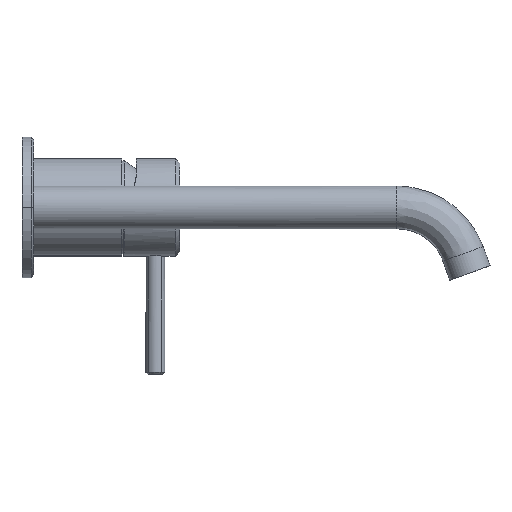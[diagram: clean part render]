
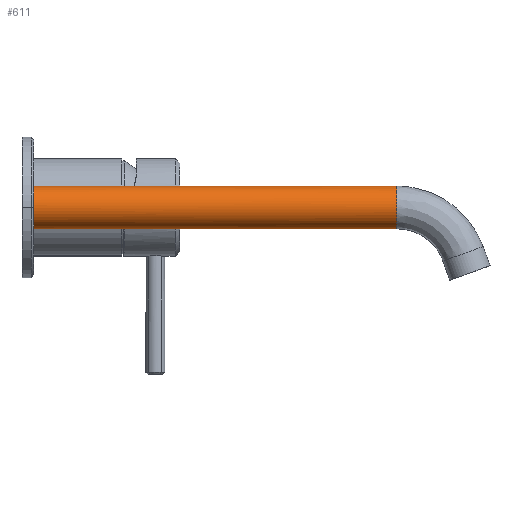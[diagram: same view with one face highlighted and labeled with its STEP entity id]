
A CAD part, left-side view. The second image highlights one B-rep face of the part: STEP entity #611.
In plain terms, the highlighted cylindrical face has radius 9.1 mm (diameter 18.2 mm), a partial arc.
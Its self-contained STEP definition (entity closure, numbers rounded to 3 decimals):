
#611=ADVANCED_FACE('',(#884),#4240,.T.);
#884=FACE_OUTER_BOUND('',#1159,.T.);
#1159=EDGE_LOOP('',(#1483,#1484,#1485,#1486));
#1483=ORIENTED_EDGE('',*,*,#2783,.F.);
#1484=ORIENTED_EDGE('',*,*,#2784,.T.);
#1485=ORIENTED_EDGE('',*,*,#2780,.F.);
#1486=ORIENTED_EDGE('',*,*,#2808,.F.);
#2780=EDGE_CURVE('',#3596,#3597,#3452,.T.);
#2783=EDGE_CURVE('',#3593,#3594,#3455,.T.);
#2784=EDGE_CURVE('',#3593,#3597,#3456,.T.);
#2808=EDGE_CURVE('',#3594,#3596,#3480,.T.);
#3452=(
BOUNDED_CURVE()
B_SPLINE_CURVE(2,(#5183,#5184,#5185,#5186,#5187),.UNSPECIFIED.,.F.,.F.)
B_SPLINE_CURVE_WITH_KNOTS((3,2,3),(28.588,42.883,57.177),
 .UNSPECIFIED.)
CURVE()
GEOMETRIC_REPRESENTATION_ITEM()
RATIONAL_B_SPLINE_CURVE((1.,0.707,1.,0.707,1.))
REPRESENTATION_ITEM('')
);
#3455=(
BOUNDED_CURVE()
B_SPLINE_CURVE(2,(#5204,#5205,#5206,#5207,#5208),.UNSPECIFIED.,.F.,.F.)
B_SPLINE_CURVE_WITH_KNOTS((3,2,3),(-4.712,-3.142,
-1.571),.UNSPECIFIED.)
CURVE()
GEOMETRIC_REPRESENTATION_ITEM()
RATIONAL_B_SPLINE_CURVE((1.,0.707,1.,0.707,1.))
REPRESENTATION_ITEM('')
);
#3456=(
BOUNDED_CURVE()
B_SPLINE_CURVE(1,(#5209,#5210),.UNSPECIFIED.,.F.,.F.)
B_SPLINE_CURVE_WITH_KNOTS((2,2),(15.994,175.812),
 .UNSPECIFIED.)
CURVE()
GEOMETRIC_REPRESENTATION_ITEM()
RATIONAL_B_SPLINE_CURVE((1.,1.))
REPRESENTATION_ITEM('')
);
#3480=(
BOUNDED_CURVE()
B_SPLINE_CURVE(1,(#5298,#5299),.UNSPECIFIED.,.F.,.F.)
B_SPLINE_CURVE_WITH_KNOTS((2,2),(15.994,175.812),
 .UNSPECIFIED.)
CURVE()
GEOMETRIC_REPRESENTATION_ITEM()
RATIONAL_B_SPLINE_CURVE((1.,1.))
REPRESENTATION_ITEM('')
);
#3593=VERTEX_POINT('',#5154);
#3594=VERTEX_POINT('',#5155);
#3596=VERTEX_POINT('',#5157);
#3597=VERTEX_POINT('',#5158);
#4240=CYLINDRICAL_SURFACE('',#4387,9.1);
#4387=AXIS2_PLACEMENT_3D('',#5039,#4639,$);
#4639=DIRECTION('',(0.,-1.,0.));
#5039=CARTESIAN_POINT('',(0.,-79.909,151.227));
#5154=CARTESIAN_POINT('',(0.,0.,142.127));
#5155=CARTESIAN_POINT('',(0.,0.,160.327));
#5157=CARTESIAN_POINT('',(0.,-159.818,160.327));
#5158=CARTESIAN_POINT('',(0.,-159.818,142.127));
#5183=CARTESIAN_POINT('',(0.,-159.818,160.327));
#5184=CARTESIAN_POINT('',(-9.1,-159.818,160.327));
#5185=CARTESIAN_POINT('',(-9.1,-159.818,151.227));
#5186=CARTESIAN_POINT('',(-9.1,-159.818,142.127));
#5187=CARTESIAN_POINT('',(0.,-159.818,142.127));
#5204=CARTESIAN_POINT('',(0.,0.,142.127));
#5205=CARTESIAN_POINT('',(-9.1,0.,142.127));
#5206=CARTESIAN_POINT('',(-9.1,0.,151.227));
#5207=CARTESIAN_POINT('',(-9.1,0.,160.327));
#5208=CARTESIAN_POINT('',(0.,0.,160.327));
#5209=CARTESIAN_POINT('',(0.,0.,142.127));
#5210=CARTESIAN_POINT('',(0.,-159.818,142.127));
#5298=CARTESIAN_POINT('',(0.,0.,160.327));
#5299=CARTESIAN_POINT('',(0.,-159.818,160.327));
